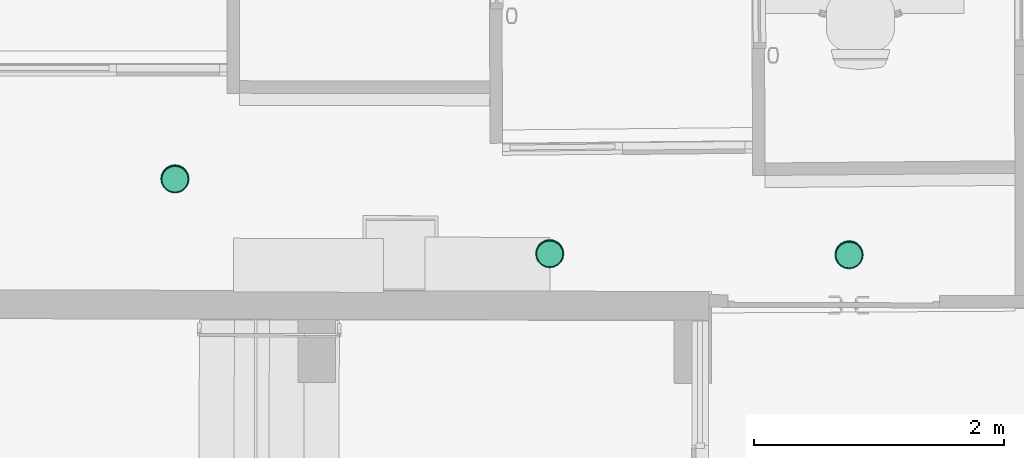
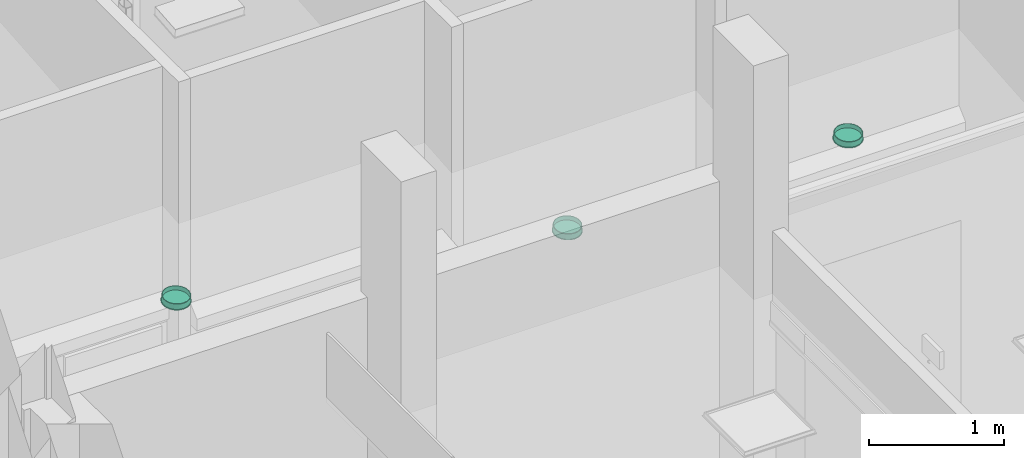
# One storey, part 68 of 128: 3 flow terminals.
"""IFC2X3 building model written with IfcOpenShell, lengths in metres."""

from ifc_helpers import new_model, entity, si_unit, converted_unit, derived_unit, direction, frame, origin, place, context, subcontext, project, spatial, faceted_brep, source, transform, mapped, material, type_object, type_shapes, element, save


model = new_model("IFC2X3")

# Units and contexts
model_context = context("Model", 3, precision=1e-05, world=origin(), true_north=direction((6.123031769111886e-17, 1.0)))
body_context = subcontext(model_context, "Body", "Model", "MODEL_VIEW")
ifc_project = project(units=[si_unit("LENGTHUNIT", "METRE"), si_unit("AREAUNIT", "SQUARE_METRE"), converted_unit("PLANEANGLEUNIT", "DEGREE", entity("IfcPlaneAngleMeasure", 0.017453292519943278), si_unit("PLANEANGLEUNIT", "RADIAN"), dimensions=[0, 0, 0, 0, 0, 0, 0]), derived_unit("THERMALTRANSMITTANCEUNIT", [(si_unit("MASSUNIT", "GRAM", prefix="KILO"), 1), (si_unit("THERMODYNAMICTEMPERATUREUNIT", "KELVIN"), -1), (si_unit("TIMEUNIT", "SECOND"), -3)])], contexts=[model_context])

# Site, building, storey
site_placement = place(None, origin())
site = spatial("IfcSite", under=ifc_project, at=site_placement, Name="Default", CompositionType="ELEMENT")
building_placement = place(site_placement, origin())
building = spatial("IfcBuilding", under=site, at=building_placement, CompositionType="ELEMENT")
storey_placement = place(building_placement, origin())
storey = spatial("IfcBuildingStorey", under=building, at=storey_placement, Name="00_RDC CAF", CompositionType="ELEMENT", Elevation=2.4982504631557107e-13)

# Flow terminals
ifc_material = material(Name="ARC - Eq Elec - Blanc")
light_fixture_type = type_object("IfcLightFixtureType", Name="Eq_Elec_Luminaire_Circulaire_LED_Encastre:Eq_Elec_Luminaire_Circulaire_LED_Encastre_D220x50mm", PredefinedType="NOTDEFINED", material=ifc_material)
shared_shape = source(origin(), body_context, "Body", "Brep", [
    faceted_brep([(0.0, 0.10499999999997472, -0.010000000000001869), (0.02717599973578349, 0.10142221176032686, -0.010000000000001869), (0.05250000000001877, 0.09093266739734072, -0.010000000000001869), (0.07424621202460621, 0.07424621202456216, -0.010000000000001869), (0.09093266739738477, 0.05249999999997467, -0.010000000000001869), (0.10142221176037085, 0.027175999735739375, -0.010000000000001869), (0.10500000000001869, 0.0, -0.010000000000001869), (0.10142221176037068, -0.02717599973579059, -0.010000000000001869), (0.09093266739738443, -0.05250000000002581, -0.010000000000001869), (0.07424621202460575, -0.07424621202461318, -0.010000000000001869), (0.0525000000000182, -0.09093266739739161, -0.010000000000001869), (0.02717599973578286, -0.10142221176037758, -0.010000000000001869), (0.0, -0.10500000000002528, -0.010000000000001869), (-0.027175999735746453, -0.10142221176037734, -0.010000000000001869), (-0.052499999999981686, -0.09093266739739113, -0.010000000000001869), (-0.07424621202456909, -0.0742462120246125, -0.010000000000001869), (-0.09093266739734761, -0.052500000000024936, -0.010000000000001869), (-0.10142221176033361, -0.027175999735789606, -0.010000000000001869), (-0.10499999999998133, 0.0, -0.010000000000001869), (-0.1014222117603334, 0.027175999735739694, -0.010000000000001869), (-0.09093266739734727, 0.05249999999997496, -0.010000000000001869), (-0.07424621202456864, 0.07424621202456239, -0.010000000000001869), (-0.052499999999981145, 0.09093266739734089, -0.010000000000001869), (-0.027175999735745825, 0.10142221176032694, -0.010000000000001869), (0.02717599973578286, -0.10142221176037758, 0.0), (0.0525000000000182, -0.09093266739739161, 0.0), (0.07424621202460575, -0.07424621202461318, 0.0), (0.09093266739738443, -0.05250000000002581, 0.0), (0.10142221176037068, -0.02717599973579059, 0.0), (0.10500000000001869, 0.0, 0.0), (0.10142221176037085, 0.027175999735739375, 0.0), (0.09093266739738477, 0.05249999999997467, 0.0), (0.07424621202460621, 0.07424621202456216, 0.0), (0.05250000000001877, 0.09093266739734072, 0.0), (0.02717599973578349, 0.10142221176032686, 0.0), (0.0, 0.10499999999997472, 0.0), (-0.027175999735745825, 0.10142221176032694, 0.0), (-0.052499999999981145, 0.09093266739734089, 0.0), (-0.07424621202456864, 0.07424621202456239, 0.0), (-0.09093266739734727, 0.05249999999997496, 0.0), (-0.1014222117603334, 0.027175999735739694, 0.0), (-0.10499999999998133, 0.0, 0.0), (-0.10142221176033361, -0.027175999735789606, 0.0), (-0.09093266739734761, -0.052500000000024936, 0.0), (-0.07424621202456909, -0.0742462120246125, 0.0), (-0.052499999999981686, -0.09093266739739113, 0.0), (-0.027175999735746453, -0.10142221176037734, 0.0), (0.0, -0.10500000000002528, 0.0)], [[[0, 1, 2, 3, 4, 5, 6, 7, 8, 9, 10, 11, 12, 13, 14, 15, 16, 17, 18, 19, 20, 21, 22, 23]], [[24, 25, 26, 27, 28, 29, 30, 31, 32, 33, 34, 35, 36, 37, 38, 39, 40, 41, 42, 43, 44, 45, 46, 47]], [[17, 42, 41, 18]], [[16, 43, 42, 17]], [[45, 44, 15, 14]], [[16, 15, 44, 43]], [[46, 45, 14, 13]], [[47, 46, 13, 12]], [[11, 24, 47, 12]], [[10, 25, 24, 11]], [[27, 26, 9, 8]], [[10, 9, 26, 25]], [[28, 27, 8, 7]], [[29, 28, 7, 6]], [[5, 30, 29, 6]], [[4, 31, 30, 5]], [[33, 32, 3, 2]], [[4, 3, 32, 31]], [[34, 33, 2, 1]], [[35, 34, 1, 0]], [[23, 36, 35, 0]], [[22, 37, 36, 23]], [[19, 18, 41, 40]], [[21, 38, 37, 22]], [[39, 20, 19, 40]], [[39, 38, 21, 20]]]),
    faceted_brep([(-0.10999999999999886, 0.0, 0.0), (-0.10999999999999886, 0.0, -0.05000000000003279), (-0.10461621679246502, -0.033991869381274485, -0.05000000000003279), (-0.10461621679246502, -0.033991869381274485, 0.0), (-0.08899186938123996, -0.06465637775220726, 0.0), (-0.08899186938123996, -0.06465637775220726, -0.05000000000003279), (-0.06465637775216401, -0.08899186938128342, -0.05000000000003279), (-0.06465637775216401, -0.08899186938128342, 0.0), (-0.03399186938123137, -0.10461621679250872, -0.05000000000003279), (-0.03399186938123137, -0.10461621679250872, 0.0), (0.0, -0.11000000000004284, -0.05000000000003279), (0.0, -0.11000000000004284, 0.0), (0.033991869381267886, -0.10461621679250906, -0.05000000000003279), (0.06465637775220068, -0.08899186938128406, -0.05000000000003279), (0.06465637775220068, -0.08899186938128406, 0.0), (0.033991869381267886, -0.10461621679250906, 0.0), (0.10461621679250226, -0.03399186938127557, 0.0), (0.08899186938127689, -0.06465637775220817, 0.0), (0.08899186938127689, -0.06465637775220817, -0.05000000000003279), (0.10461621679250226, -0.03399186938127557, -0.05000000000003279), (0.11000000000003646, 0.0, 0.0), (0.11000000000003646, 0.0, -0.05000000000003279), (-0.1093714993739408, -0.03553695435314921, 0.0), (-0.1093714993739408, -0.03553695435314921, 0.004999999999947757), (-0.11135404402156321, -0.023019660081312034, 0.004999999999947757), (-0.11499999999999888, 0.0, 0.004999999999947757), (-0.11499999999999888, 0.0, 0.0), (-0.11218574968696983, -0.017768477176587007, 0.0), (-0.09303695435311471, -0.0675953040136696, 0.0), (-0.08031612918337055, -0.08031612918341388, 0.0), (-0.06759530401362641, -0.09303695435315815, 0.0), (-0.06759530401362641, -0.09303695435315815, 0.004999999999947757), (-0.08031612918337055, -0.08031612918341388, 0.004999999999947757), (-0.09303695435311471, -0.0675953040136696, 0.004999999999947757), (0.10120422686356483, -0.05156612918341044, 0.004999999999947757), (0.09303695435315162, -0.06759530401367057, 0.004999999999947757), (0.09303695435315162, -0.06759530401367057, 0.0), (0.10120422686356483, -0.05156612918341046, 0.0), (0.10937149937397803, -0.035536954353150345, 0.0), (0.10937149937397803, -0.035536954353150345, 0.004999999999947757), (0.08031612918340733, -0.0803161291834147, 0.004999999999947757), (0.06759530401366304, -0.09303695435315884, 0.004999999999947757), (0.06759530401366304, -0.09303695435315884, 0.0), (0.08031612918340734, -0.08031612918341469, 0.0), (-0.10120422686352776, -0.0515661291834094, 0.0), (-0.10120422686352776, -0.0515661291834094, 0.004999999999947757), (-0.051566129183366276, -0.10120422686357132, 0.0), (-0.03553695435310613, -0.1093714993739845, 0.0), (-0.03553695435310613, -0.1093714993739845, 0.004999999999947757), (-0.051566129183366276, -0.10120422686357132, 0.004999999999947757), (0.11500000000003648, 0.0, 0.004999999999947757), (0.11135404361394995, -0.02301966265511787, 0.004999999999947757), (0.11218574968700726, -0.01776847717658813, 0.0), (0.11500000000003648, 0.0, 0.0), (0.017768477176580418, -0.11218574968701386, 0.0), (0.0355369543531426, -0.10937149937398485, 0.0), (0.0355369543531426, -0.10937149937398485, 0.004999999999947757), (0.017768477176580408, -0.11218574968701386, 0.004999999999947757), (0.0, -0.11500000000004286, 0.004999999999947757), (0.0, -0.11500000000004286, 0.0), (-0.017768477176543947, -0.11218574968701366, 0.004999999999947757), (-0.017768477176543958, -0.11218574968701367, 0.0), (0.051566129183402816, -0.10120422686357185, 0.0), (0.051566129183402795, -0.10120422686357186, 0.004999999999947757), (-0.09986093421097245, -0.0324467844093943, -0.05000000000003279), (-0.1049999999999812, 0.0, -0.05000000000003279), (-0.1049999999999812, 0.0, 0.004999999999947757), (-0.09986093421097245, -0.0324467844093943, 0.004999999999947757), (-0.061717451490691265, -0.08494678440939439, -0.05000000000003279), (-0.08494678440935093, -0.06171745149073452, -0.05000000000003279), (-0.08494678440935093, -0.06171745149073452, 0.004999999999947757), (-0.061717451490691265, -0.08494678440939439, 0.004999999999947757), (-0.03244678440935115, -0.09986093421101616, 0.004999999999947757), (-0.03244678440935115, -0.09986093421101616, -0.05000000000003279), (0.0, -0.10500000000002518, 0.004999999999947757), (0.0, -0.10500000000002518, -0.05000000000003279), (0.06171745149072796, -0.08494678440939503, -0.05000000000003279), (0.03244678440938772, -0.0998609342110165, -0.05000000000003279), (0.03244678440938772, -0.0998609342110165, 0.004999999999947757), (0.06171745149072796, -0.08494678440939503, 0.004999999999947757), (0.09986093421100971, -0.03244678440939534, -0.05000000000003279), (0.0849467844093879, -0.06171745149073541, -0.05000000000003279), (0.0849467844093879, -0.06171745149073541, 0.004999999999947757), (0.09986093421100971, -0.03244678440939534, 0.004999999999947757), (0.1050000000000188, 0.0, -0.05000000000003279), (0.1050000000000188, 0.0, 0.004999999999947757), (0.10461621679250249, 0.03399186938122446, -0.05000000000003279), (0.10461621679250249, 0.03399186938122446, 0.0), (0.08899186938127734, 0.06465637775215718, 0.0), (0.08899186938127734, 0.06465637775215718, -0.05000000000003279), (0.0646563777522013, 0.08899186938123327, -0.05000000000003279), (0.0646563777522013, 0.08899186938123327, 0.0), (0.03399186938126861, 0.10461621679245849, -0.05000000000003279), (0.03399186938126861, 0.10461621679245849, 0.0), (0.0, 0.10999999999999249, -0.05000000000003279), (0.0, 0.10999999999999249, 0.0), (-0.033991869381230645, 0.1046162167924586, -0.05000000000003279), (-0.0646563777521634, 0.0889918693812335, -0.05000000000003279), (-0.0646563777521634, 0.0889918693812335, 0.0), (-0.033991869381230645, 0.1046162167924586, 0.0), (-0.10461621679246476, 0.03399186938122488, 0.0), (-0.0889918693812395, 0.06465637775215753, 0.0), (-0.0889918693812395, 0.06465637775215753, -0.05000000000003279), (-0.10461621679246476, 0.03399186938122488, -0.05000000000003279), (0.09986093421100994, 0.03244678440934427, -0.05000000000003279), (0.08494678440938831, 0.061717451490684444, -0.05000000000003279), (0.06171745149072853, 0.08494678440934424, -0.05000000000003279), (0.03244678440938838, 0.0998609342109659, -0.05000000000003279), (0.0, 0.1049999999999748, -0.05000000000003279), (-0.032446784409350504, 0.09986093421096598, -0.05000000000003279), (-0.061717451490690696, 0.0849467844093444, -0.05000000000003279), (-0.0849467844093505, 0.06171745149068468, -0.05000000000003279), (-0.0998609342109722, 0.03244678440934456, -0.05000000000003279), (0.10937149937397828, 0.035536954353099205, 0.0), (0.10937149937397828, 0.035536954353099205, 0.004999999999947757), (0.11135404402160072, 0.023019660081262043, 0.004999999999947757), (0.11218574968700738, 0.017768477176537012, 0.0), (0.0930369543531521, 0.06759530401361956, 0.0), (0.0803161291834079, 0.0803161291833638, 0.0), (0.06759530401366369, 0.093036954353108, 0.0), (0.06759530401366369, 0.093036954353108, 0.004999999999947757), (0.0803161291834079, 0.0803161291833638, 0.004999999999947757), (0.0930369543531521, 0.06759530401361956, 0.004999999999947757), (-0.1012042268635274, 0.05156612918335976, 0.004999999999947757), (-0.09303695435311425, 0.06759530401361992, 0.004999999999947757), (-0.09303695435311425, 0.06759530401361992, 0.0), (-0.1012042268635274, 0.05156612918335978, 0.0), (-0.10937149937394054, 0.03553695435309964, 0.0), (-0.10937149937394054, 0.03553695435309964, 0.004999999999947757), (-0.08031612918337, 0.0803161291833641, 0.004999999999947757), (-0.06759530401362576, 0.09303695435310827, 0.004999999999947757), (-0.06759530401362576, 0.09303695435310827, 0.0), (-0.08031612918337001, 0.08031612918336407, 0.0), (0.1012042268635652, 0.05156612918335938, 0.0), (0.1012042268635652, 0.05156612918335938, 0.004999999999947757), (0.051566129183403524, 0.10120422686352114, 0.0), (0.03553695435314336, 0.10937149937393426, 0.0), (0.03553695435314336, 0.10937149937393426, 0.004999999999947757), (0.051566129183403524, 0.10120422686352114, 0.004999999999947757), (-0.11135404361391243, 0.023019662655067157, 0.004999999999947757), (-0.11218574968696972, 0.017768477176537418, 0.0), (-0.0177684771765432, 0.11218574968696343, 0.0), (-0.035536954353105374, 0.1093714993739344, 0.0), (-0.035536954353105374, 0.1093714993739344, 0.004999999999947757), (-0.017768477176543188, 0.11218574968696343, 0.004999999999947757), (0.0, 0.1149999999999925, 0.004999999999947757), (0.0, 0.1149999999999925, 0.0), (0.017768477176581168, 0.11218574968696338, 0.004999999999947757), (0.017768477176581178, 0.11218574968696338, 0.0), (-0.05156612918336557, 0.10120422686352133, 0.0), (-0.05156612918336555, 0.10120422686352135, 0.004999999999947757), (0.09986093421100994, 0.03244678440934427, 0.004999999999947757), (0.08494678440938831, 0.061717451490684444, 0.004999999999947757), (0.06171745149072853, 0.08494678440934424, 0.004999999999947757), (0.03244678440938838, 0.0998609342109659, 0.004999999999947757), (0.0, 0.1049999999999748, 0.004999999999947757), (-0.032446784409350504, 0.09986093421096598, 0.004999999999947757), (-0.061717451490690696, 0.0849467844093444, 0.004999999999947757), (-0.0849467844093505, 0.06171745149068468, 0.004999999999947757), (-0.0998609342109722, 0.03244678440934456, 0.004999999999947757)], [[[0, 1, 2, 3]], [[4, 5, 6, 7]], [[2, 5, 4, 3]], [[6, 8, 9, 7]], [[9, 8, 10, 11]], [[12, 13, 14, 15]], [[16, 17, 18, 19]], [[18, 17, 14, 13]], [[20, 16, 19, 21]], [[15, 11, 10, 12]], [[22, 23, 24, 25, 26, 27]], [[28, 29, 30, 31, 32, 33]], [[34, 35, 36, 37, 38, 39]], [[40, 41, 42, 43, 36, 35]], [[22, 44, 28, 33, 45, 23]], [[30, 46, 47, 48, 49, 31]], [[50, 51, 39, 38, 52, 53]], [[54, 55, 56, 57, 58, 59]], [[60, 48, 47, 61, 59, 58]], [[55, 62, 42, 41, 63, 56]], [[64, 65, 66, 67]], [[68, 69, 70, 71]], [[67, 70, 69, 64]], [[71, 72, 73, 68]], [[74, 75, 73, 72]], [[76, 77, 78, 79]], [[80, 81, 82, 83]], [[82, 81, 76, 79]], [[84, 80, 83, 85]], [[78, 77, 75, 74]], [[20, 21, 86, 87]], [[88, 89, 90, 91]], [[86, 89, 88, 87]], [[90, 92, 93, 91]], [[93, 92, 94, 95]], [[96, 97, 98, 99]], [[100, 101, 102, 103]], [[102, 101, 98, 97]], [[0, 100, 103, 1]], [[99, 95, 94, 96]], [[64, 69, 5]], [[5, 2, 64]], [[64, 2, 65]], [[6, 5, 69]], [[69, 68, 6]], [[68, 73, 6]], [[8, 6, 73]], [[73, 75, 8]], [[10, 8, 75]], [[10, 75, 77]], [[77, 12, 10]], [[77, 76, 12]], [[13, 12, 76]], [[81, 13, 76]], [[13, 81, 18]], [[80, 18, 81]], [[18, 80, 19]], [[84, 19, 80]], [[21, 19, 84]], [[104, 21, 84]], [[86, 21, 104]], [[104, 105, 86]], [[89, 86, 105]], [[106, 89, 105]], [[89, 106, 90]], [[92, 90, 106]], [[106, 107, 92]], [[92, 107, 94]], [[107, 108, 94]], [[94, 108, 96]], [[108, 109, 96]], [[97, 96, 109]], [[109, 110, 97]], [[102, 97, 110]], [[110, 111, 102]], [[102, 111, 103]], [[112, 103, 111]], [[103, 112, 1]], [[112, 65, 1]], [[1, 65, 2]], [[113, 114, 115, 50, 53, 116]], [[117, 118, 119, 120, 121, 122]], [[123, 124, 125, 126, 127, 128]], [[129, 130, 131, 132, 125, 124]], [[113, 133, 117, 122, 134, 114]], [[119, 135, 136, 137, 138, 120]], [[25, 139, 128, 127, 140, 26]], [[141, 142, 143, 144, 145, 146]], [[147, 137, 136, 148, 146, 145]], [[142, 149, 131, 130, 150, 143]], [[33, 70, 67]], [[70, 33, 32]], [[67, 45, 33]], [[70, 32, 31]], [[31, 71, 70]], [[31, 72, 71]], [[72, 31, 49]], [[72, 49, 48]], [[48, 74, 72]], [[74, 48, 60]], [[74, 60, 58]], [[78, 74, 58]], [[78, 58, 57]], [[78, 57, 56]], [[56, 79, 78]], [[79, 56, 63]], [[79, 63, 41]], [[79, 41, 82]], [[82, 41, 40]], [[82, 40, 35]], [[82, 35, 83]], [[83, 35, 34]], [[83, 34, 39]], [[83, 39, 85]], [[85, 39, 51]], [[85, 51, 50]], [[85, 50, 151]], [[151, 50, 115]], [[151, 115, 114]], [[114, 152, 151]], [[152, 114, 134]], [[152, 134, 122]], [[152, 122, 153]], [[153, 122, 121]], [[153, 121, 120]], [[153, 120, 138]], [[153, 138, 137]], [[137, 154, 153]], [[154, 137, 147]], [[154, 147, 145]], [[145, 155, 154]], [[155, 145, 144]], [[155, 144, 143]], [[143, 156, 155]], [[156, 143, 150]], [[156, 150, 130]], [[130, 157, 156]], [[157, 130, 129]], [[157, 129, 124]], [[124, 158, 157]], [[158, 124, 123]], [[158, 123, 128]], [[158, 128, 159]], [[159, 128, 139]], [[159, 139, 25]], [[25, 66, 159]], [[66, 25, 24]], [[66, 24, 23]], [[23, 67, 66]], [[67, 23, 45]], [[104, 84, 85, 151]], [[106, 105, 152, 153]], [[151, 152, 105, 104]], [[153, 154, 107, 106]], [[155, 108, 107, 154]], [[110, 109, 156, 157]], [[112, 111, 158, 159]], [[158, 111, 110, 157]], [[65, 112, 159, 66]], [[156, 109, 108, 155]], [[3, 4, 28]], [[3, 28, 44]], [[3, 44, 22]], [[3, 22, 0]], [[4, 29, 28]], [[4, 30, 29]], [[4, 7, 30]], [[7, 9, 30]], [[9, 46, 30]], [[9, 47, 46]], [[9, 11, 47]], [[11, 61, 47]], [[11, 59, 61]], [[59, 11, 15]], [[15, 54, 59]], [[15, 55, 54]], [[15, 14, 55]], [[14, 62, 55]], [[14, 42, 62]], [[17, 42, 14]], [[17, 43, 42]], [[17, 36, 43]], [[16, 36, 17]], [[16, 37, 36]], [[16, 38, 37]], [[20, 38, 16]], [[20, 52, 38]], [[20, 53, 52]], [[87, 53, 20]], [[87, 116, 53]], [[87, 113, 116]], [[87, 88, 113]], [[88, 133, 113]], [[88, 117, 133]], [[91, 117, 88]], [[91, 118, 117]], [[91, 119, 118]], [[91, 135, 119]], [[91, 136, 135]], [[91, 93, 136]], [[93, 148, 136]], [[93, 146, 148]], [[93, 95, 146]], [[95, 141, 146]], [[95, 142, 141]], [[95, 99, 142]], [[99, 149, 142]], [[99, 131, 149]], [[99, 98, 131]], [[98, 132, 131]], [[98, 125, 132]], [[98, 101, 125]], [[101, 126, 125]], [[101, 127, 126]], [[100, 127, 101]], [[100, 0, 26]], [[100, 26, 140]], [[100, 140, 127]], [[0, 22, 27]], [[0, 27, 26]]]),
])
type_shapes(light_fixture_type, [shared_shape])
for number, where, z_axis, x_axis in (
    (1, (8.60323323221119, 131.14051118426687, 2.8700567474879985), (0.0, 0.08963769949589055, -0.9959744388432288), (1.0, 0.0, 0.0)),
    (2, (11.602233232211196, 130.54248299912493, 2.8162342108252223), (0.0, 0.08963769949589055, -0.9959744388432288), (1.0, 0.0, 0.0)),
    (3, (13.997233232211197, 130.53348300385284, 2.815424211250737), (0.0, 0.08963769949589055, -0.9959744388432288), (1.0, 0.0, 0.0)),
):
    element("IfcFlowTerminal", number, at=place(storey_placement, frame(where, z_axis=z_axis, x_axis=x_axis)), inside=storey, type_object=light_fixture_type, material=ifc_material, Name="Eq_Elec_Luminaire_Circulaire_LED_Encastre:Eq_Elec_Luminaire_Circulaire_LED_Encastre_D220x50mm", ObjectType="Eq_Elec_Luminaire_Circulaire_LED_Encastre:Eq_Elec_Luminaire_Circulaire_LED_Encastre_D220x50mm", context=body_context, shape_type="MappedRepresentation", body=[
        mapped(shared_shape, transform((0.0, 0.0, 0.0), scale=1.0)),
    ])

save(model, "model.ifc")
